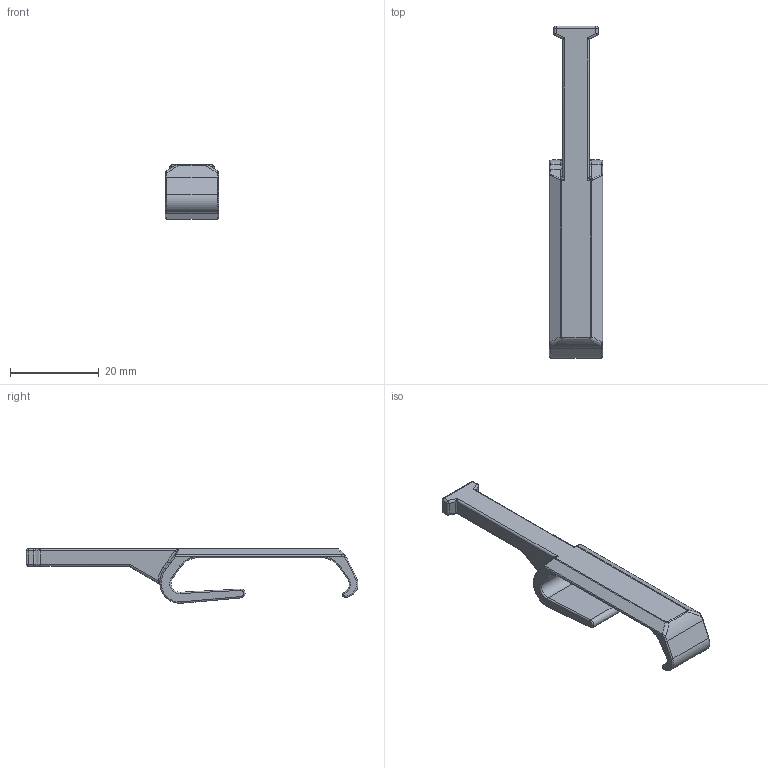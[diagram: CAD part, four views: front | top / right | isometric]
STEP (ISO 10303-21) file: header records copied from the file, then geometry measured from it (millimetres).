
FILE_DESCRIPTION((''),'2;1');
FILE_NAME('C:\Dokumente und Einstellungen\Uebbing\Desktop\HS 320.stp','2014-05-22T15:15:13',('Uebbing'),(''),'Autodesk Inventor 10','Autodesk Inventor 10','');
FILE_SCHEMA(('AUTOMOTIVE_DESIGN { 1 0 10303 214 1 1 1 1 }'));
Length unit declared in the file: millimetre
Products named in the file (1): HS 320
Bounding box: 12 x 75 x 12.32 mm (x, y, z)
Volume: 2734.5 mm3; surface area: 2675.1 mm2
Topology: 1 solids, 1 shells, 139 faces, 322 edges, 167 vertices
Faces by surface type: cylinder 61, bspline 24, plane 24, torus 20, sphere 10
Entity records: 5614 total; most frequent: CARTESIAN_POINT 2590, DIRECTION 666, ORIENTED_EDGE 608, EDGE_CURVE 304, AXIS2_PLACEMENT_3D 272, VERTEX_POINT 167, EDGE_LOOP 139, FACE_OUTER_BOUND 139
